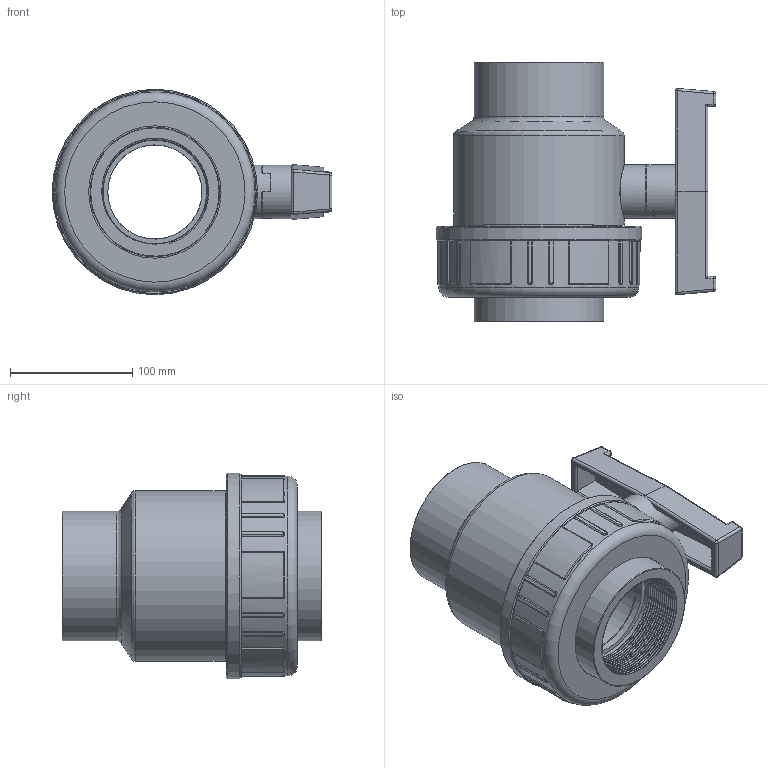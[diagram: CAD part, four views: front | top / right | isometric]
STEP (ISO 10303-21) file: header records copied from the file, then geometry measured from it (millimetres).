
FILE_DESCRIPTION(/* description */ (''),/* implementation_level */ '2;1');
FILE_NAME(/* name */ 'C:\Users\POLYPIPE\Desktop\DATASET INVENTOR\LIBRERIA EFFAST\3D_VALVOLE\3D_VALVOLE A SFERA\3D_SV\3D_BERSVE\3D_BERSVE090I.stp',/* time_stamp */ '2018-01-24T15:15:28+01:00',/* author */ ('POLYPIPE'),/* organization */ (''),/* preprocessor_version */ 'ST-DEVELOPER v16.1',/* originating_system */ 'Autodesk Inventor 2016',/* authorisation */ '');
FILE_SCHEMA (('CONFIG_CONTROL_DESIGN'));
Length unit declared in the file: centimetre
Products named in the file (1): 3D_BERSVE090I
Bounding box: 228.75 x 212.25 x 167.99 mm (x, y, z)
Volume: 583639.6 mm3; surface area: 291003.6 mm2
Topology: 2 solids, 3 shells, 320 faces, 794 edges, 488 vertices
Faces by surface type: cylinder 111, bspline 95, plane 76, torus 19, sphere 16, cone 3
Full cylindrical faces by diameter (mm): 29.8 x1, 43.5 x1, 44.1 x1, 76.8 x1, 77 x1, 84.926 x2, 106 x2, 108.2 x1, 133 x1, 137 x1, 139.5 x1, 142.5 x1, 163.5 x1, 168 x1
Entity records: 41875 total; most frequent: CARTESIAN_POINT 34490, ORIENTED_EDGE 1520, DIRECTION 1336, EDGE_CURVE 760, AXIS2_PLACEMENT_3D 527, VERTEX_POINT 479, EDGE_LOOP 357, STYLED_ITEM 322
